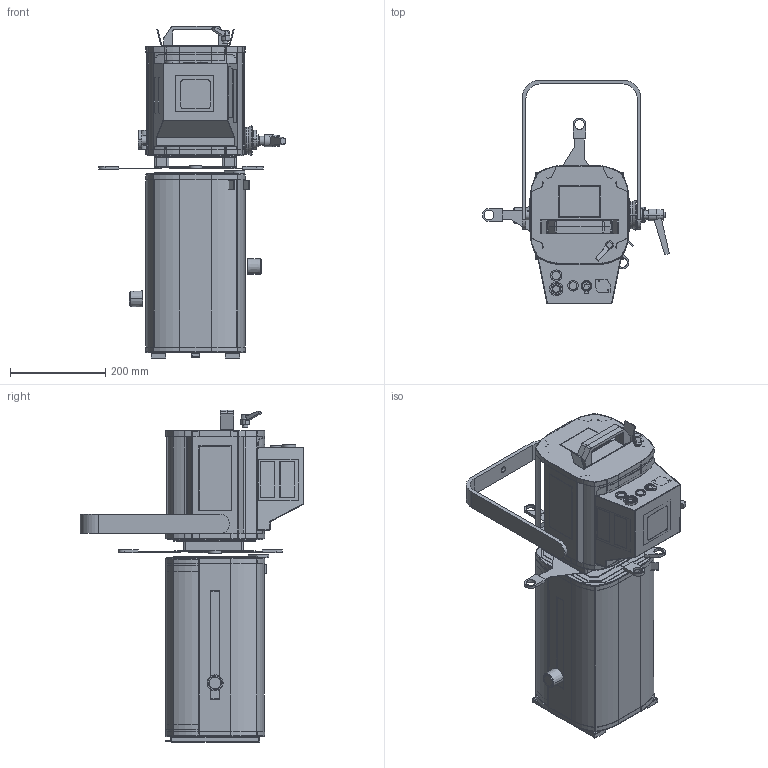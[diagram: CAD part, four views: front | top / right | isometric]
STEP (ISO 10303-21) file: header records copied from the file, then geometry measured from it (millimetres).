
FILE_DESCRIPTION (( 'STEP AP203' ), '1' );
FILE_NAME ('654 4C.STEP', '2023-05-04T13:43:19', ( '' ), ( '' ), 'SwSTEP 2.0', 'SolidWorks 2019', '' );
FILE_SCHEMA (( 'CONFIG_CONTROL_DESIGN' ));
Length unit declared in the file: millimetre
Products named in the file (1): 654 4C
Bounding box: 391.34 x 468.85 x 695.6 mm (x, y, z)
Volume: 1481111.6 mm3; surface area: 1982626.3 mm2
Topology: 60 solids, 60 shells, 1123 faces, 2614 edges, 1640 vertices
Faces by surface type: plane 694, cylinder 358, torus 38, cone 29, bspline 4
Entity records: 31895 total; most frequent: CARTESIAN_POINT 5700, DIRECTION 5600, ORIENTED_EDGE 5228, EDGE_CURVE 2614, AXIS2_PLACEMENT_3D 1920, VECTOR 1760, LINE 1760, VERTEX_POINT 1640
